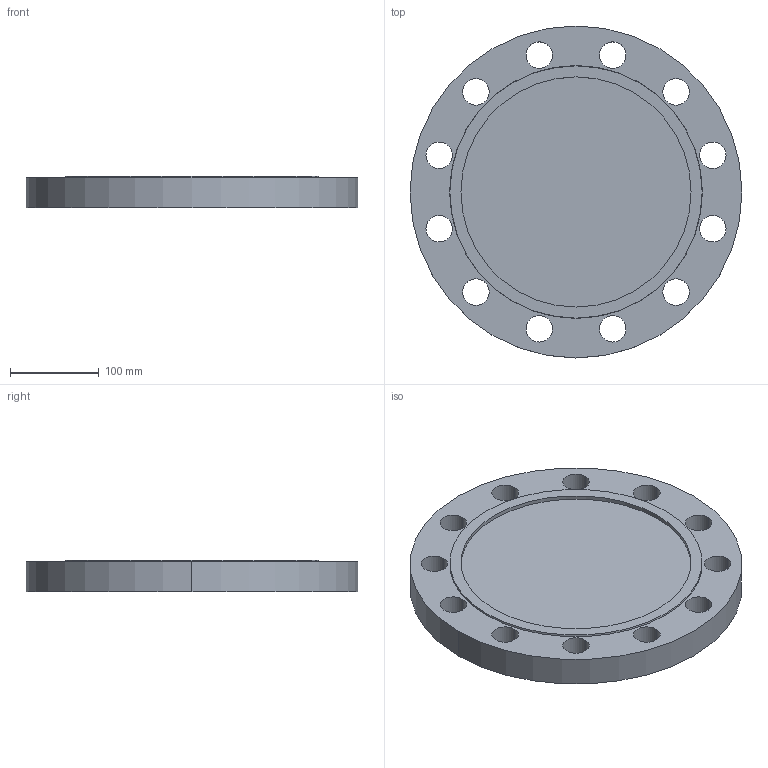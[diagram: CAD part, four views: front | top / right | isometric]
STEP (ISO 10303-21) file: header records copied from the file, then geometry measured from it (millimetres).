
FILE_DESCRIPTION (( 'STEP AP214' ), '1' );
FILE_NAME ('PN40 DN200 Type 05 - Type F Face.STEP', '2019-01-05T02:24:00', ( '' ), ( '' ), 'SwSTEP 2.0', 'SolidWorks 2019', '' );
FILE_SCHEMA (( 'AUTOMOTIVE_DESIGN' ));
Length unit declared in the file: millimetre
Products named in the file (1): PN40 DN200 Type 05 - Type F Face
Bounding box: 375 x 375 x 36 mm (x, y, z)
Volume: 3355772.6 mm3; surface area: 287617.1 mm2
Topology: 1 solids, 1 shells, 34 faces, 90 edges, 60 vertices
Faces by surface type: cylinder 28, plane 4, cone 2
Entity records: 1176 total; most frequent: DIRECTION 220, CARTESIAN_POINT 185, ORIENTED_EDGE 180, AXIS2_PLACEMENT_3D 95, EDGE_CURVE 90, VERTEX_POINT 60, EDGE_LOOP 60, CIRCLE 60
